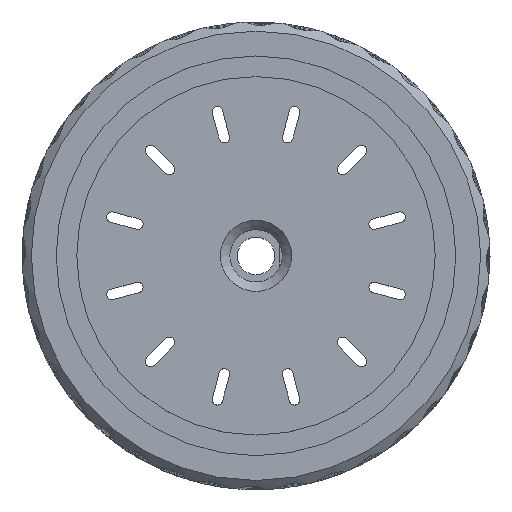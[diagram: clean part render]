
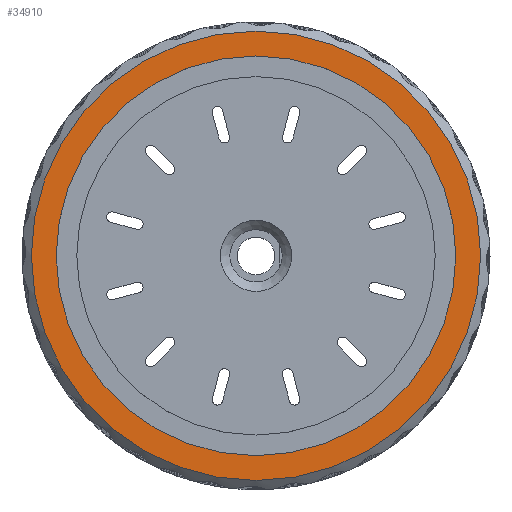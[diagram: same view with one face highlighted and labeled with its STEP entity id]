
A CAD part, top view. The second image highlights one B-rep face of the part: STEP entity #34910.
In plain terms, the highlighted planar face has unit normal (0, 0, 1).
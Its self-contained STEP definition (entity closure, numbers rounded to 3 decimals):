
#154 = CONICAL_SURFACE('',#155,105.,0.785);
#155 = AXIS2_PLACEMENT_3D('',#156,#157,#158);
#156 = CARTESIAN_POINT('',(0.,0.,36.));
#157 = DIRECTION('',(-0.,-0.,-1.));
#158 = DIRECTION('',(1.,0.,-0.));
#322 = VERTEX_POINT('',#323);
#323 = CARTESIAN_POINT('',(96.01,0.,45.));
#344 = EDGE_CURVE('',#322,#322,#345,.T.);
#345 = SURFACE_CURVE('',#346,(#351,#358),.PCURVE_S1.);
#346 = CIRCLE('',#347,96.01);
#347 = AXIS2_PLACEMENT_3D('',#348,#349,#350);
#348 = CARTESIAN_POINT('',(0.,0.,45.));
#349 = DIRECTION('',(0.,0.,1.));
#350 = DIRECTION('',(1.,0.,-0.));
#351 = PCURVE('',#154,#352);
#352 = DEFINITIONAL_REPRESENTATION('',(#353),#357);
#353 = LINE('',#354,#355);
#354 = CARTESIAN_POINT('',(-0.,-9.));
#355 = VECTOR('',#356,1.);
#356 = DIRECTION('',(-1.,-0.));
#357 = ( GEOMETRIC_REPRESENTATION_CONTEXT(2) 
PARAMETRIC_REPRESENTATION_CONTEXT() REPRESENTATION_CONTEXT('2D SPACE',''
  ) );
#358 = PCURVE('',#359,#364);
#359 = PLANE('',#360);
#360 = AXIS2_PLACEMENT_3D('',#361,#362,#363);
#361 = CARTESIAN_POINT('',(0.,0.,45.));
#362 = DIRECTION('',(0.,0.,1.));
#363 = DIRECTION('',(1.,0.,-0.));
#364 = DEFINITIONAL_REPRESENTATION('',(#365),#369);
#365 = CIRCLE('',#366,96.01);
#366 = AXIS2_PLACEMENT_2D('',#367,#368);
#367 = CARTESIAN_POINT('',(0.,0.));
#368 = DIRECTION('',(1.,0.));
#369 = ( GEOMETRIC_REPRESENTATION_CONTEXT(2) 
PARAMETRIC_REPRESENTATION_CONTEXT() REPRESENTATION_CONTEXT('2D SPACE',''
  ) );
#34910 = ADVANCED_FACE('',(#34911,#34914),#359,.T.);
#34911 = FACE_BOUND('',#34912,.T.);
#34912 = EDGE_LOOP('',(#34913));
#34913 = ORIENTED_EDGE('',*,*,#344,.T.);
#34914 = FACE_BOUND('',#34915,.T.);
#34915 = EDGE_LOOP('',(#34916));
#34916 = ORIENTED_EDGE('',*,*,#34917,.T.);
#34917 = EDGE_CURVE('',#34918,#34918,#34920,.T.);
#34918 = VERTEX_POINT('',#34919);
#34919 = CARTESIAN_POINT('',(85.4,0.,45.));
#34920 = SURFACE_CURVE('',#34921,(#34926,#34937),.PCURVE_S1.);
#34921 = CIRCLE('',#34922,85.4);
#34922 = AXIS2_PLACEMENT_3D('',#34923,#34924,#34925);
#34923 = CARTESIAN_POINT('',(0.,0.,45.));
#34924 = DIRECTION('',(0.,0.,-1.));
#34925 = DIRECTION('',(1.,0.,0.));
#34926 = PCURVE('',#359,#34927);
#34927 = DEFINITIONAL_REPRESENTATION('',(#34928),#34936);
#34928 = ( BOUNDED_CURVE() B_SPLINE_CURVE(2,(#34929,#34930,#34931,#34932
    ,#34933,#34934,#34935),.UNSPECIFIED.,.T.,.F.) 
B_SPLINE_CURVE_WITH_KNOTS((1,2,2,2,2,1),(-2.094,0.,
    2.094,4.189,6.283,8.378),
.UNSPECIFIED.) CURVE() GEOMETRIC_REPRESENTATION_ITEM() 
RATIONAL_B_SPLINE_CURVE((1.,0.5,1.,0.5,1.,0.5,1.)) REPRESENTATION_ITEM(
  '') );
#34929 = CARTESIAN_POINT('',(85.4,0.));
#34930 = CARTESIAN_POINT('',(85.4,-147.917));
#34931 = CARTESIAN_POINT('',(-42.7,-73.959));
#34932 = CARTESIAN_POINT('',(-170.8,0.));
#34933 = CARTESIAN_POINT('',(-42.7,73.959));
#34934 = CARTESIAN_POINT('',(85.4,147.917));
#34935 = CARTESIAN_POINT('',(85.4,0.));
#34936 = ( GEOMETRIC_REPRESENTATION_CONTEXT(2) 
PARAMETRIC_REPRESENTATION_CONTEXT() REPRESENTATION_CONTEXT('2D SPACE',''
  ) );
#34937 = PCURVE('',#34938,#34943);
#34938 = CYLINDRICAL_SURFACE('',#34939,85.4);
#34939 = AXIS2_PLACEMENT_3D('',#34940,#34941,#34942);
#34940 = CARTESIAN_POINT('',(0.,0.,39.));
#34941 = DIRECTION('',(-0.,-0.,-1.));
#34942 = DIRECTION('',(1.,0.,0.));
#34943 = DEFINITIONAL_REPRESENTATION('',(#34944),#34948);
#34944 = LINE('',#34945,#34946);
#34945 = CARTESIAN_POINT('',(-6.283,-6.));
#34946 = VECTOR('',#34947,1.);
#34947 = DIRECTION('',(1.,-0.));
#34948 = ( GEOMETRIC_REPRESENTATION_CONTEXT(2) 
PARAMETRIC_REPRESENTATION_CONTEXT() REPRESENTATION_CONTEXT('2D SPACE',''
  ) );
